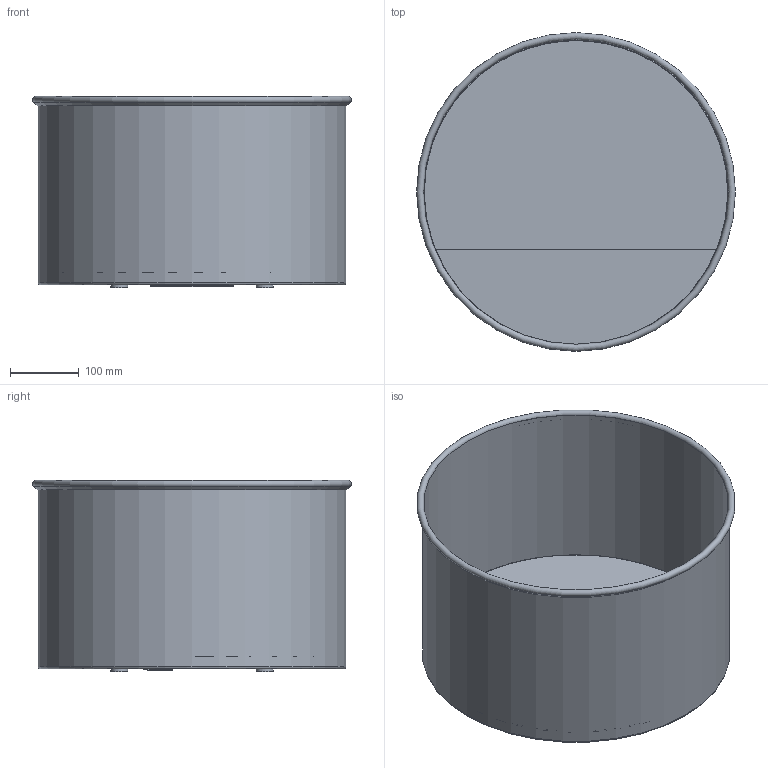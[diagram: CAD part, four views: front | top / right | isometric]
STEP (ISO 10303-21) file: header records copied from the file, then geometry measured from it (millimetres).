
FILE_DESCRIPTION(/* description */ (''),/* implementation_level */ '2;1');
FILE_NAME(/* name */ 'C:\AutodeskVault\AreaLavoro\Progetti\SoVeT Italia\3. Specchi_Mirrors\Horizon\Web file\Horizon Web\P5320.stp',/* time_stamp */ '2015-01-20T16:32:55+01:00',/* author */ ('Gianluca'),/* organization */ ('So.Ve.T. s.r.l.'),/* preprocessor_version */ 'ST-DEVELOPER v15.2',/* originating_system */ 'Autodesk Inventor 2014',/* authorisation */ 'IL PROGETTO E'' DI ESCLUSIVA PROPRIETA'' DELLA SO.VE.T. srl. E'' VIETATA OGNI RIPRODUZIONE TOTALE O PARZIALE E QUALSIASI UTILIZZO NON AUTORIZZATO.');
FILE_SCHEMA (('AUTOMOTIVE_DESIGN { 1 0 10303 214 3 1 1 }'));
Length unit declared in the file: centimetre
Products named in the file (1): P5320 Contorno semplificato
Bounding box: 464.98 x 464.98 x 278.99 mm (x, y, z)
Volume: 1719060.2 mm3; surface area: 1708720.3 mm2
Topology: 3 solids, 4 shells, 60 faces, 127 edges, 81 vertices
Faces by surface type: plane 30, cylinder 21, cone 5, torus 4
Full cylindrical faces by diameter (mm): 3 x4, 6 x3, 25 x4, 200 x1, 443 x1, 445 x2, 449 x2
Entity records: 1511 total; most frequent: DIRECTION 262, CARTESIAN_POINT 221, ORIENTED_EDGE 182, AXIS2_PLACEMENT_3D 111, EDGE_LOOP 102, EDGE_CURVE 90, VERTEX_POINT 70, ADVANCED_FACE 60
